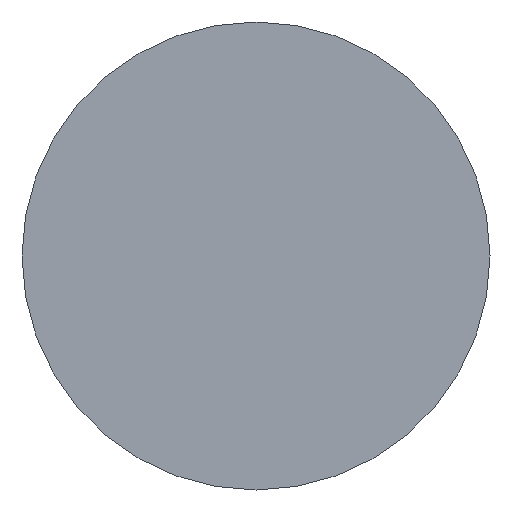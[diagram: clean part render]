
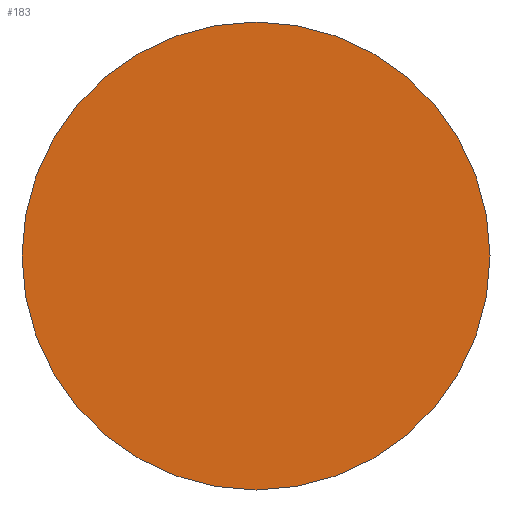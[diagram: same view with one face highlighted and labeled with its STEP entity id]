
A CAD part, left-side view. The second image highlights one B-rep face of the part: STEP entity #183.
In plain terms, the highlighted planar face has unit normal (-1, 0, 0).
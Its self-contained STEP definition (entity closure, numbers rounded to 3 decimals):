
#7 = CIRCLE ( 'NONE', #238, 6. ) ;
#22 = DIRECTION ( 'NONE',  ( 1., 0., 0. ) ) ;
#44 = CARTESIAN_POINT ( 'NONE',  ( 0., 6., 0. ) ) ;
#70 = ORIENTED_EDGE ( 'NONE', *, *, #72, .F. ) ;
#72 = EDGE_CURVE ( 'NONE', #184, #139, #243, .T. ) ;
#97 = AXIS2_PLACEMENT_3D ( 'NONE', #269, #153, #151 ) ;
#114 = EDGE_CURVE ( 'NONE', #139, #184, #7, .T. ) ;
#139 = VERTEX_POINT ( 'NONE', #223 ) ;
#143 = AXIS2_PLACEMENT_3D ( 'NONE', #201, #175, #252 ) ;
#151 = DIRECTION ( 'NONE',  ( 0., -1., 0. ) ) ;
#153 = DIRECTION ( 'NONE',  ( -1., 0., 0. ) ) ;
#166 = CARTESIAN_POINT ( 'NONE',  ( 0., 0., 0. ) ) ;
#173 = PLANE ( 'NONE',  #97 ) ;
#175 = DIRECTION ( 'NONE',  ( 1., 0., 0. ) ) ;
#182 = FACE_OUTER_BOUND ( 'NONE', #225, .T. ) ;
#183 = ADVANCED_FACE ( 'NONE', ( #182 ), #173, .T. ) ;
#184 = VERTEX_POINT ( 'NONE', #44 ) ;
#201 = CARTESIAN_POINT ( 'NONE',  ( 0., 0., 0. ) ) ;
#215 = DIRECTION ( 'NONE',  ( 0., 1., 0. ) ) ;
#223 = CARTESIAN_POINT ( 'NONE',  ( 0., -6., 0. ) ) ;
#225 = EDGE_LOOP ( 'NONE', ( #70, #242 ) ) ;
#238 = AXIS2_PLACEMENT_3D ( 'NONE', #166, #22, #215 ) ;
#242 = ORIENTED_EDGE ( 'NONE', *, *, #114, .F. ) ;
#243 = CIRCLE ( 'NONE', #143, 6. ) ;
#252 = DIRECTION ( 'NONE',  ( 0., 1., 0. ) ) ;
#269 = CARTESIAN_POINT ( 'NONE',  ( 0., 0., 0. ) ) ;
